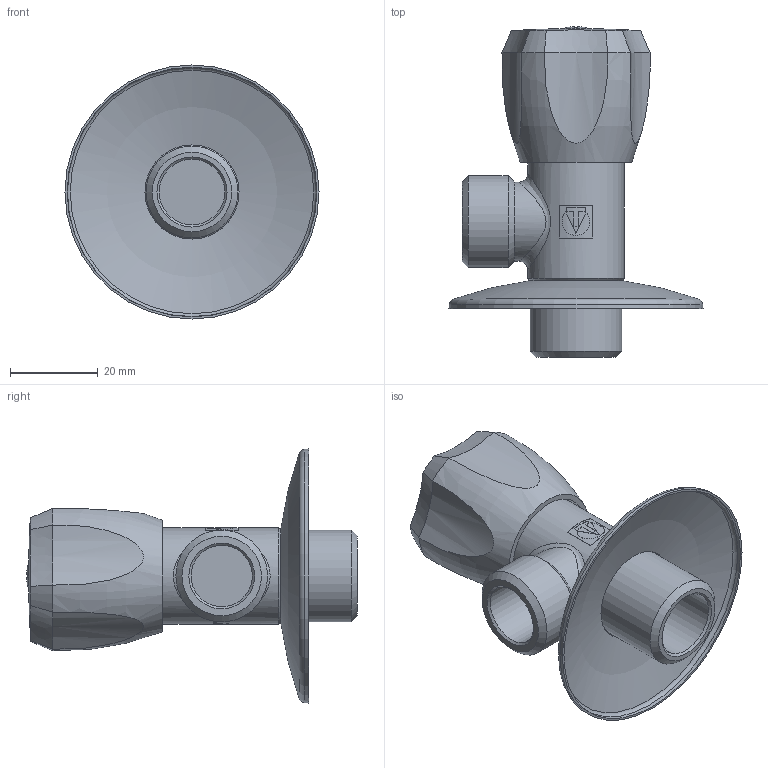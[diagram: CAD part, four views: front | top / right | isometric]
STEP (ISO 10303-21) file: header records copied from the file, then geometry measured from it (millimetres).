
FILE_DESCRIPTION(('STEP AP203'), '1');
FILE_NAME('VT.240.N.04', '', ('UNSPECIFIED'), ('UNSPECIFIED'), 'C3D Converter', 'C3D Toolkit', '');
FILE_SCHEMA(('CONFIG_CONTROL_DESIGN'));
Length unit declared in the file: millimetre
Products named in the file (1): ВР.493176.040.000 СБ
Bounding box: 58 x 75.57 x 58 mm (x, y, z)
Volume: 32035.8 mm3; surface area: 19265.1 mm2
Topology: 2 solids, 5 shells, 239 faces, 580 edges, 363 vertices
Faces by surface type: plane 100, cylinder 55, extrusion 45, cone 24, bspline 6, torus 6, sphere 3
Full cylindrical faces by diameter (mm): 4 x1, 6 x1, 6.4 x1, 8 x1, 9 x1, 10.2 x1, 13 x2, 14 x1, 15 x1, 18.1 x1, 20 x1, 20.955 x2, 21.5 x1, 22 x1, 23 x1
Entity records: 11051 total; most frequent: CARTESIAN_POINT 5747, ORIENTED_EDGE 1082, DIRECTION 993, EDGE_CURVE 541, AXIS2_PLACEMENT_3D 370, VERTEX_POINT 363, EDGE_LOOP 298, VECTOR 253
